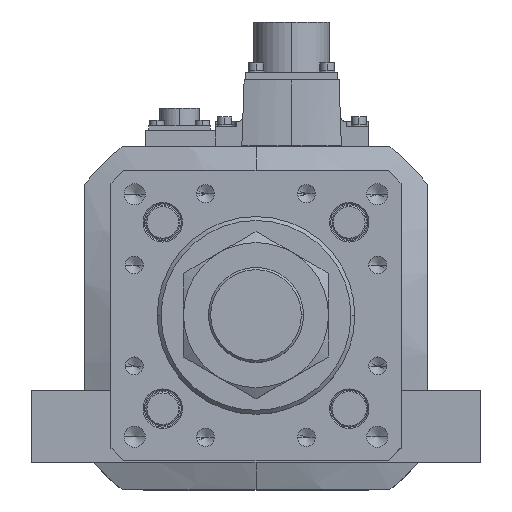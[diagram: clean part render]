
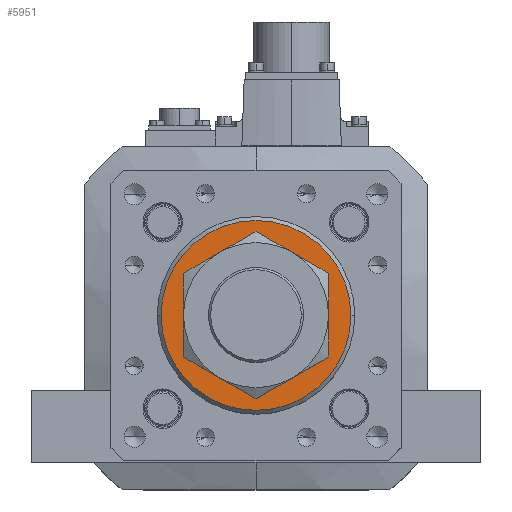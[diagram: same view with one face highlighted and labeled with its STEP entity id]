
A CAD part, top view. The second image highlights one B-rep face of the part: STEP entity #5951.
In plain terms, the highlighted planar face has unit normal (0, 0, 1).
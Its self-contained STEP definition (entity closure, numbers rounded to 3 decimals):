
#737 = ORIENTED_EDGE ( 'NONE', *, *, #6209, .T. ) ;
#969 = AXIS2_PLACEMENT_3D ( 'NONE', #14625, #26808, #2734 ) ;
#2734 = DIRECTION ( 'NONE',  ( 1., 0., 0. ) ) ;
#3142 = DIRECTION ( 'NONE',  ( 1., 0., 0. ) ) ;
#3327 = ORIENTED_EDGE ( 'NONE', *, *, #14131, .T. ) ;
#3812 = FACE_OUTER_BOUND ( 'NONE', #17440, .T. ) ;
#4354 = CARTESIAN_POINT ( 'NONE',  ( 0., 0., 346. ) ) ;
#5325 = DIRECTION ( 'NONE',  ( 0., 0., 1. ) ) ;
#5951 = ADVANCED_FACE ( 'NONE', ( #20784, #3812 ), #25636, .T. ) ;
#6038 = VERTEX_POINT ( 'NONE', #37845 ) ;
#6209 = EDGE_CURVE ( 'NONE', #36573, #6038, #14682, .T. ) ;
#6441 = CARTESIAN_POINT ( 'NONE',  ( 0., 0., 346. ) ) ;
#6532 = DIRECTION ( 'NONE',  ( 0., 0., -1. ) ) ;
#7585 = EDGE_CURVE ( 'NONE', #34722, #22873, #22063, .T. ) ;
#8336 = DIRECTION ( 'NONE',  ( 1., 0., 0. ) ) ;
#10256 = CARTESIAN_POINT ( 'NONE',  ( 23., 0., 346. ) ) ;
#10257 = CIRCLE ( 'NONE', #24137, 23. ) ;
#13340 = DIRECTION ( 'NONE',  ( 1., 0., 0. ) ) ;
#13670 = EDGE_CURVE ( 'NONE', #22873, #34722, #36578, .T. ) ;
#14131 = EDGE_CURVE ( 'NONE', #6038, #36573, #10257, .T. ) ;
#14625 = CARTESIAN_POINT ( 'NONE',  ( 0., 0., 346. ) ) ;
#14682 = CIRCLE ( 'NONE', #969, 23. ) ;
#15423 = CARTESIAN_POINT ( 'NONE',  ( 36., 0., 346. ) ) ;
#15787 = CARTESIAN_POINT ( 'NONE',  ( 0., 0., 346. ) ) ;
#17440 = EDGE_LOOP ( 'NONE', ( #31808, #20643 ) ) ;
#17638 = AXIS2_PLACEMENT_3D ( 'NONE', #6441, #18593, #3142 ) ;
#18593 = DIRECTION ( 'NONE',  ( 0., 0., 1. ) ) ;
#20310 = EDGE_LOOP ( 'NONE', ( #737, #3327 ) ) ;
#20343 = CARTESIAN_POINT ( 'NONE',  ( 0., 0., 346. ) ) ;
#20643 = ORIENTED_EDGE ( 'NONE', *, *, #7585, .T. ) ;
#20784 = FACE_BOUND ( 'NONE', #20310, .T. ) ;
#22063 = CIRCLE ( 'NONE', #26191, 36. ) ;
#22873 = VERTEX_POINT ( 'NONE', #28762 ) ;
#24137 = AXIS2_PLACEMENT_3D ( 'NONE', #15787, #6532, #27566 ) ;
#25636 = PLANE ( 'NONE',  #28157 ) ;
#26191 = AXIS2_PLACEMENT_3D ( 'NONE', #20343, #5325, #8336 ) ;
#26808 = DIRECTION ( 'NONE',  ( 0., 0., -1. ) ) ;
#27566 = DIRECTION ( 'NONE',  ( 1., 0., 0. ) ) ;
#28157 = AXIS2_PLACEMENT_3D ( 'NONE', #4354, #37325, #13340 ) ;
#28762 = CARTESIAN_POINT ( 'NONE',  ( -36., 0., 346. ) ) ;
#31808 = ORIENTED_EDGE ( 'NONE', *, *, #13670, .T. ) ;
#34722 = VERTEX_POINT ( 'NONE', #15423 ) ;
#36573 = VERTEX_POINT ( 'NONE', #10256 ) ;
#36578 = CIRCLE ( 'NONE', #17638, 36. ) ;
#37325 = DIRECTION ( 'NONE',  ( 0., 0., 1. ) ) ;
#37845 = CARTESIAN_POINT ( 'NONE',  ( -23., 0., 346. ) ) ;
